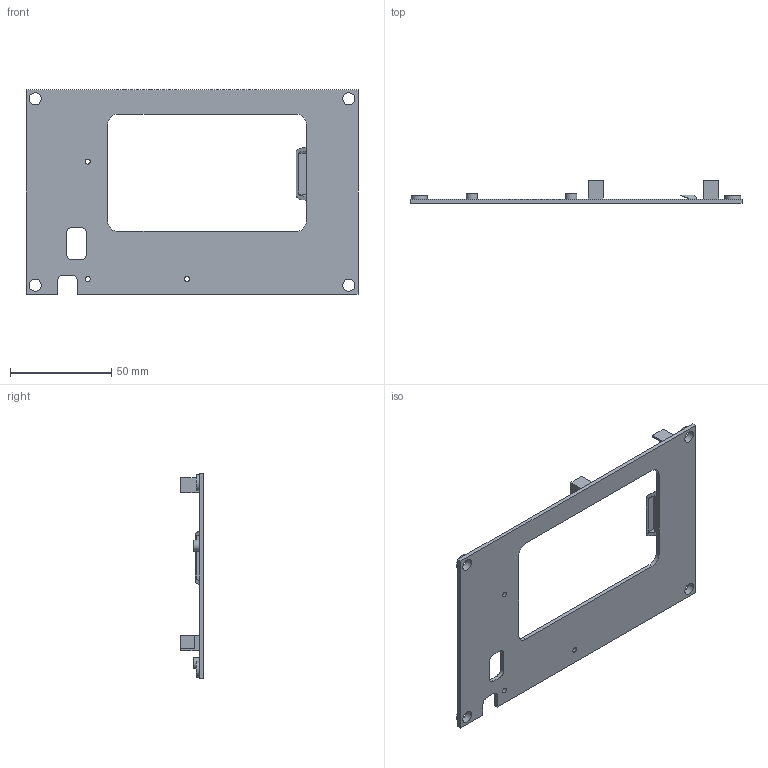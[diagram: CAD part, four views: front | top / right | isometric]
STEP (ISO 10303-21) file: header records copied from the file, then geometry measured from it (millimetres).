
FILE_DESCRIPTION(/* description */ ('STEP AP242','CAx-IF Rec.Pracs.---Representation and Presentation of Product Manufacturing Information (PMI)---4.0---2014-10-13','CAx-IF Rec.Pracs.---3D Tessellated Geometry---0.4---2014-09-14','2;1'),/* implementation_level */ '2;1');
FILE_NAME(/* name */ '68661502b91e413e52508de6',/* time_stamp */ '2025-07-03T05:28:35Z',/* author */ (''),/* organization */ (''),/* preprocessor_version */ 'ST-DEVELOPER v20',/* originating_system */ 'ONSHAPE BY PTC INC, 1.200',/* authorisation */ ' ');
FILE_SCHEMA (('AP242_MANAGED_MODEL_BASED_3D_ENGINEERING_MIM_LF { 1 0 10303 442 1 1 4 }'));
Length unit declared in the file: metre
Products named in the file (1): Part 1
Bounding box: 163.9 x 11.1 x 101 mm (x, y, z)
Volume: 22183.1 mm3; surface area: 24670.5 mm2
Topology: 1 solids, 1 shells, 83 faces, 217 edges, 146 vertices
Faces by surface type: plane 54, cylinder 29
Full cylindrical faces by diameter (mm): 2.5 x3, 5.5 x3, 6 x4, 8 x4
Entity records: 2493 total; most frequent: DIRECTION 421, CARTESIAN_POINT 421, ORIENTED_EDGE 394, EDGE_CURVE 197, LINE 141, VECTOR 141, VERTEX_POINT 140, AXIS2_PLACEMENT_3D 140
